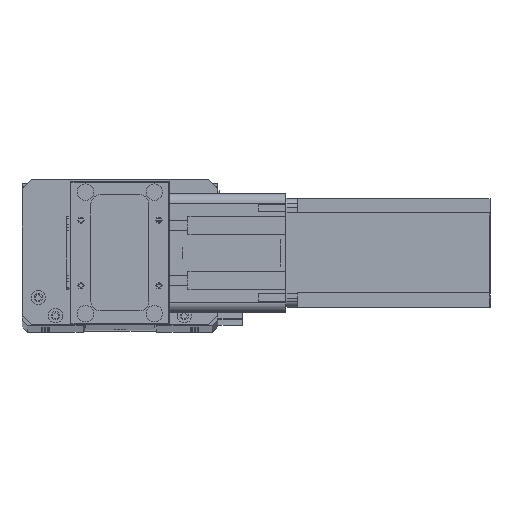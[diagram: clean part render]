
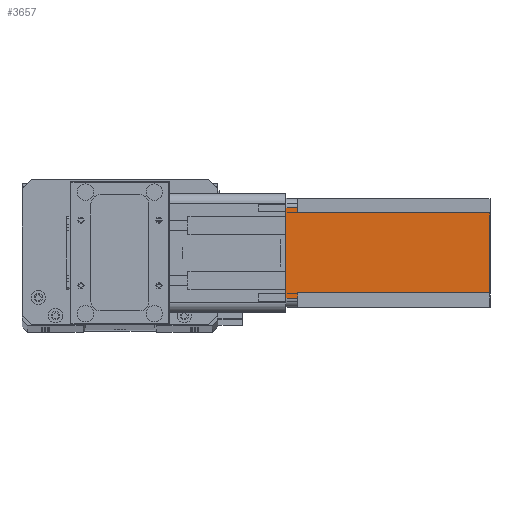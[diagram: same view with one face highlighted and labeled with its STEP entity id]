
A CAD part, top view. The second image highlights one B-rep face of the part: STEP entity #3657.
In plain terms, the highlighted planar face has unit normal (0, 0, 1) as drawn and (0, 1, 0) by its records, which use the part's own axes.
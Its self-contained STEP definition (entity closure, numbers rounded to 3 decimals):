
#163 = VERTEX_POINT ( 'NONE', #20248 ) ;
#828 = VERTEX_POINT ( 'NONE', #14835 ) ;
#1297 = DIRECTION ( 'NONE',  ( 0., 0., 1. ) ) ;
#2297 = LINE ( 'NONE', #7228, #19839 ) ;
#2505 = CARTESIAN_POINT ( 'NONE',  ( 0., 60., 0. ) ) ;
#3320 = CARTESIAN_POINT ( 'NONE',  ( 8., 60., -112.5 ) ) ;
#3636 = CARTESIAN_POINT ( 'NONE',  ( 0., 60., -112.5 ) ) ;
#3657 = ADVANCED_FACE ( 'NONE', ( #7799 ), #28835, .T. ) ;
#3737 = DIRECTION ( 'NONE',  ( 0., 1., 0. ) ) ;
#3765 = VECTOR ( 'NONE', #6921, 1000. ) ;
#5935 = DIRECTION ( 'NONE',  ( 0., 0., -1. ) ) ;
#6921 = DIRECTION ( 'NONE',  ( -1., 0., 0. ) ) ;
#7086 = VECTOR ( 'NONE', #29484, 1000. ) ;
#7111 = ORIENTED_EDGE ( 'NONE', *, *, #27758, .T. ) ;
#7228 = CARTESIAN_POINT ( 'NONE',  ( 52., 60., -6.5 ) ) ;
#7606 = EDGE_LOOP ( 'NONE', ( #21175, #19150, #21193, #15842, #7111, #9515, #7674, #28875 ) ) ;
#7674 = ORIENTED_EDGE ( 'NONE', *, *, #18323, .T. ) ;
#7799 = FACE_OUTER_BOUND ( 'NONE', #7606, .T. ) ;
#7842 = EDGE_CURVE ( 'NONE', #29279, #11949, #13205, .T. ) ;
#8249 = EDGE_CURVE ( 'NONE', #24915, #12595, #16042, .T. ) ;
#9251 = VECTOR ( 'NONE', #5935, 1000. ) ;
#9515 = ORIENTED_EDGE ( 'NONE', *, *, #14108, .F. ) ;
#10411 = CARTESIAN_POINT ( 'NONE',  ( 5., 60., -112.5 ) ) ;
#10940 = VECTOR ( 'NONE', #1297, 1000. ) ;
#11513 = DIRECTION ( 'NONE',  ( -1., 0., 0. ) ) ;
#11883 = VERTEX_POINT ( 'NONE', #3320 ) ;
#11949 = VERTEX_POINT ( 'NONE', #28627 ) ;
#12595 = VERTEX_POINT ( 'NONE', #15218 ) ;
#12636 = LINE ( 'NONE', #2505, #24779 ) ;
#13205 = LINE ( 'NONE', #13501, #7086 ) ;
#13501 = CARTESIAN_POINT ( 'NONE',  ( 52., 60., -112.5 ) ) ;
#14108 = EDGE_CURVE ( 'NONE', #17368, #11883, #22760, .T. ) ;
#14285 = EDGE_CURVE ( 'NONE', #828, #163, #17011, .T. ) ;
#14835 = CARTESIAN_POINT ( 'NONE',  ( 5., 60., -6.5 ) ) ;
#15147 = CARTESIAN_POINT ( 'NONE',  ( 52., 60., -112.5 ) ) ;
#15218 = CARTESIAN_POINT ( 'NONE',  ( 55., 60., -6.5 ) ) ;
#15842 = ORIENTED_EDGE ( 'NONE', *, *, #7842, .F. ) ;
#16042 = LINE ( 'NONE', #17367, #9251 ) ;
#16097 = CARTESIAN_POINT ( 'NONE',  ( 8., 60., -6.5 ) ) ;
#17011 = LINE ( 'NONE', #10411, #10940 ) ;
#17367 = CARTESIAN_POINT ( 'NONE',  ( 55., 60., -112.5 ) ) ;
#17368 = VERTEX_POINT ( 'NONE', #21374 ) ;
#18323 = EDGE_CURVE ( 'NONE', #17368, #828, #28575, .T. ) ;
#18530 = DIRECTION ( 'NONE',  ( -1., 0., 0. ) ) ;
#19150 = ORIENTED_EDGE ( 'NONE', *, *, #8249, .T. ) ;
#19745 = DIRECTION ( 'NONE',  ( 0., 0., 1. ) ) ;
#19839 = VECTOR ( 'NONE', #23253, 1000. ) ;
#20248 = CARTESIAN_POINT ( 'NONE',  ( 5., 60., 0. ) ) ;
#20673 = CARTESIAN_POINT ( 'NONE',  ( 0., 60., -112.5 ) ) ;
#21035 = AXIS2_PLACEMENT_3D ( 'NONE', #3636, #3737, #19745 ) ;
#21175 = ORIENTED_EDGE ( 'NONE', *, *, #29561, .F. ) ;
#21193 = ORIENTED_EDGE ( 'NONE', *, *, #23193, .F. ) ;
#21228 = CARTESIAN_POINT ( 'NONE',  ( 8., 60., -112.5 ) ) ;
#21326 = LINE ( 'NONE', #20673, #3765 ) ;
#21374 = CARTESIAN_POINT ( 'NONE',  ( 8., 60., -6.5 ) ) ;
#22037 = VECTOR ( 'NONE', #23509, 1000. ) ;
#22488 = VECTOR ( 'NONE', #11513, 1000. ) ;
#22760 = LINE ( 'NONE', #21228, #22037 ) ;
#23193 = EDGE_CURVE ( 'NONE', #11949, #12595, #2297, .T. ) ;
#23253 = DIRECTION ( 'NONE',  ( 1., 0., 0. ) ) ;
#23509 = DIRECTION ( 'NONE',  ( 0., 0., -1. ) ) ;
#24779 = VECTOR ( 'NONE', #18530, 1000. ) ;
#24915 = VERTEX_POINT ( 'NONE', #27766 ) ;
#27758 = EDGE_CURVE ( 'NONE', #29279, #11883, #21326, .T. ) ;
#27766 = CARTESIAN_POINT ( 'NONE',  ( 55., 60., 0. ) ) ;
#28575 = LINE ( 'NONE', #16097, #22488 ) ;
#28627 = CARTESIAN_POINT ( 'NONE',  ( 52., 60., -6.5 ) ) ;
#28835 = PLANE ( 'NONE',  #21035 ) ;
#28875 = ORIENTED_EDGE ( 'NONE', *, *, #14285, .T. ) ;
#29279 = VERTEX_POINT ( 'NONE', #15147 ) ;
#29484 = DIRECTION ( 'NONE',  ( 0., 0., 1. ) ) ;
#29561 = EDGE_CURVE ( 'NONE', #24915, #163, #12636, .T. ) ;
